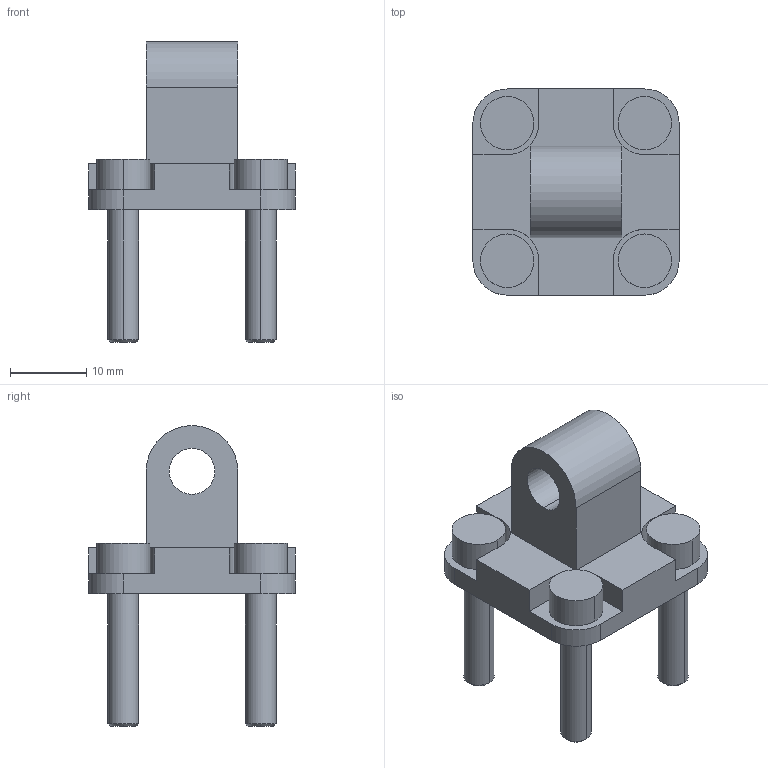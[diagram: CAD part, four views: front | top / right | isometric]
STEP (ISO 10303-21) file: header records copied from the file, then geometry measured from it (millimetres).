
FILE_DESCRIPTION((''),'2;1');
FILE_NAME('1825805368','2023-11-07T16:32:47',('THD3HC'),(''),'CREO PARAMETRIC BY PTC INC, 2020044','CREO PARAMETRIC BY PTC INC, 2020044','');
FILE_SCHEMA(('CONFIG_CONTROL_DESIGN','SHAPE_APPEARANCE_LAYERS_GROUPS'));
Length unit declared in the file: millimetre
Products named in the file (1): 1825805368
Bounding box: 27 x 27 x 39.4 mm (x, y, z)
Volume: 6362.7 mm3; surface area: 4458.5 mm2
Topology: 1 solids, 1 shells, 80 faces, 192 edges, 128 vertices
Faces by surface type: cylinder 37, plane 35, cone 8
Entity records: 3602 total; most frequent: DIRECTION 442, CARTESIAN_POINT 400, ORIENTED_EDGE 384, PRESENTATION_STYLE_ASSIGNMENT 243, STYLED_ITEM 194, CURVE_STYLE 192, EDGE_CURVE 192, AXIS2_PLACEMENT_3D 170
